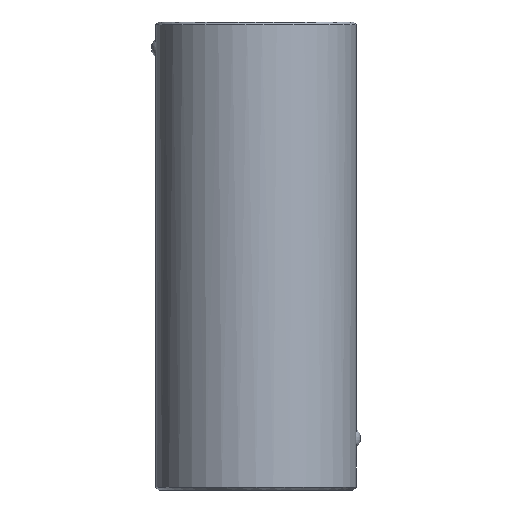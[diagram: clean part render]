
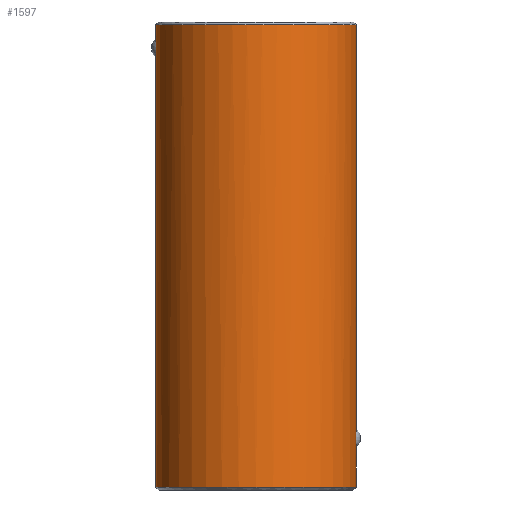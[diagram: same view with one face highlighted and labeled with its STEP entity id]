
A CAD part, front view. The second image highlights one B-rep face of the part: STEP entity #1597.
In plain terms, the highlighted cylindrical face has radius 12 mm (diameter 24 mm), a partial arc.
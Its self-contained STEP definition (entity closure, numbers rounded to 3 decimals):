
#1369=CARTESIAN_POINT('Vertex',(-12.,0.,0.3)) ;
#1376=CARTESIAN_POINT('Vertex',(12.,0.,0.3)) ;
#1379=CARTESIAN_POINT('Axis2P3D Location',(0.,0.,0.3)) ;
#1497=CARTESIAN_POINT('Axis2P3D Location',(0.,0.,56.)) ;
#1502=CARTESIAN_POINT('Line Origine',(12.,0.,56.)) ;
#1506=CARTESIAN_POINT('Vertex',(12.,0.,5.082)) ;
#1510=CARTESIAN_POINT('Control Point',(11.945,-1.143,6.424)) ;
#1511=CARTESIAN_POINT('Control Point',(11.937,-1.227,6.029)) ;
#1512=CARTESIAN_POINT('Control Point',(11.946,-1.127,5.596)) ;
#1513=CARTESIAN_POINT('Control Point',(11.983,-0.81,5.247)) ;
#1514=CARTESIAN_POINT('Control Point',(12.,-0.404,5.082)) ;
#1515=CARTESIAN_POINT('Control Point',(12.,0.,5.082)) ;
#1516=CARTESIAN_POINT('Vertex',(11.945,-1.143,6.424)) ;
#1520=CARTESIAN_POINT('Control Point',(12.,0.,7.318)) ;
#1521=CARTESIAN_POINT('Control Point',(12.,-0.393,7.318)) ;
#1522=CARTESIAN_POINT('Control Point',(11.981,-0.79,7.149)) ;
#1523=CARTESIAN_POINT('Control Point',(11.953,-1.061,6.808)) ;
#1524=CARTESIAN_POINT('Control Point',(11.945,-1.143,6.424)) ;
#1525=CARTESIAN_POINT('Vertex',(12.,0.,7.318)) ;
#1528=CARTESIAN_POINT('Line Origine',(12.,0.,56.)) ;
#1532=CARTESIAN_POINT('Vertex',(12.,0.,55.7)) ;
#1536=CARTESIAN_POINT('Control Point',(-12.,0.,55.7)) ;
#1537=CARTESIAN_POINT('Control Point',(-12.,-1.885,55.7)) ;
#1538=CARTESIAN_POINT('Control Point',(-11.63,-3.77,55.7)) ;
#1539=CARTESIAN_POINT('Control Point',(-10.889,-5.558,55.7)) ;
#1540=CARTESIAN_POINT('Control Point',(-8.747,-8.747,55.7)) ;
#1541=CARTESIAN_POINT('Control Point',(-5.558,-10.889,55.7)) ;
#1542=CARTESIAN_POINT('Control Point',(-3.77,-11.63,55.7)) ;
#1543=CARTESIAN_POINT('Control Point',(0.,-12.37,55.7)) ;
#1544=CARTESIAN_POINT('Control Point',(3.77,-11.63,55.7)) ;
#1545=CARTESIAN_POINT('Control Point',(5.558,-10.889,55.7)) ;
#1546=CARTESIAN_POINT('Control Point',(8.747,-8.747,55.7)) ;
#1547=CARTESIAN_POINT('Control Point',(10.889,-5.558,55.7)) ;
#1548=CARTESIAN_POINT('Control Point',(11.63,-3.77,55.7)) ;
#1549=CARTESIAN_POINT('Control Point',(12.,-1.885,55.7)) ;
#1550=CARTESIAN_POINT('Control Point',(12.,0.,55.7)) ;
#1551=CARTESIAN_POINT('Vertex',(-12.,0.,55.7)) ;
#1554=CARTESIAN_POINT('Line Origine',(-12.,0.,56.)) ;
#1558=CARTESIAN_POINT('Vertex',(-12.,0.,54.018)) ;
#1562=CARTESIAN_POINT('Control Point',(-11.945,-1.143,52.676)) ;
#1563=CARTESIAN_POINT('Control Point',(-11.937,-1.227,53.071)) ;
#1564=CARTESIAN_POINT('Control Point',(-11.946,-1.127,53.504)) ;
#1565=CARTESIAN_POINT('Control Point',(-11.983,-0.81,53.853)) ;
#1566=CARTESIAN_POINT('Control Point',(-12.,-0.404,54.018)) ;
#1567=CARTESIAN_POINT('Control Point',(-12.,0.,54.018)) ;
#1568=CARTESIAN_POINT('Vertex',(-11.945,-1.143,52.676)) ;
#1572=CARTESIAN_POINT('Control Point',(-12.,0.,51.782)) ;
#1573=CARTESIAN_POINT('Control Point',(-12.,-0.393,51.782)) ;
#1574=CARTESIAN_POINT('Control Point',(-11.981,-0.79,51.951)) ;
#1575=CARTESIAN_POINT('Control Point',(-11.953,-1.061,52.292)) ;
#1576=CARTESIAN_POINT('Control Point',(-11.945,-1.143,52.676)) ;
#1577=CARTESIAN_POINT('Vertex',(-12.,0.,51.782)) ;
#1580=CARTESIAN_POINT('Line Origine',(-12.,0.,56.)) ;
#1380=DIRECTION('Axis2P3D Direction',(0.,-0.,1.)) ;
#1498=DIRECTION('Axis2P3D Direction',(0.,0.,-1.)) ;
#1499=DIRECTION('Axis2P3D XDirection',(1.,0.,0.)) ;
#1503=DIRECTION('Vector Direction',(0.,0.,-1.)) ;
#1529=DIRECTION('Vector Direction',(0.,0.,-1.)) ;
#1555=DIRECTION('Vector Direction',(0.,0.,-1.)) ;
#1581=DIRECTION('Vector Direction',(0.,0.,-1.)) ;
#1381=AXIS2_PLACEMENT_3D('Circle Axis2P3D',#1379,#1380,$) ;
#1500=AXIS2_PLACEMENT_3D('Cylinder Axis2P3D',#1497,#1498,#1499) ;
#1586=ORIENTED_EDGE('',*,*,#1508,.T.) ;
#1587=ORIENTED_EDGE('',*,*,#1518,.F.) ;
#1588=ORIENTED_EDGE('',*,*,#1527,.F.) ;
#1589=ORIENTED_EDGE('',*,*,#1534,.T.) ;
#1590=ORIENTED_EDGE('',*,*,#1553,.F.) ;
#1591=ORIENTED_EDGE('',*,*,#1560,.T.) ;
#1592=ORIENTED_EDGE('',*,*,#1570,.F.) ;
#1593=ORIENTED_EDGE('',*,*,#1579,.F.) ;
#1594=ORIENTED_EDGE('',*,*,#1584,.T.) ;
#1595=ORIENTED_EDGE('',*,*,#1383,.T.) ;
#1504=VECTOR('Line Direction',#1503,1.) ;
#1530=VECTOR('Line Direction',#1529,1.) ;
#1556=VECTOR('Line Direction',#1555,1.) ;
#1582=VECTOR('Line Direction',#1581,1.) ;
#1597=ADVANCED_FACE('730-19x56',(#1596),#1501,.T.) ;
#1509=B_SPLINE_CURVE_WITH_KNOTS('',5,(#1510,#1511,#1512,#1513,#1514,#1515),.UNSPECIFIED.,.F.,.U.,(6,6),(0.,2.867),.UNSPECIFIED.) ;
#1519=B_SPLINE_CURVE_WITH_KNOTS('',4,(#1520,#1521,#1522,#1523,#1524),.UNSPECIFIED.,.F.,.U.,(5,5),(0.,2.23),.UNSPECIFIED.) ;
#1535=B_SPLINE_CURVE_WITH_KNOTS('',5,(#1536,#1537,#1538,#1539,#1540,#1541,#1542,#1543,#1544,#1545,#1546,#1547,#1548,#1549,#1550),.UNSPECIFIED.,.F.,.U.,(6,3,3,3,6),(-18.85,-9.425,0.,9.425,18.85),.UNSPECIFIED.) ;
#1561=B_SPLINE_CURVE_WITH_KNOTS('',5,(#1562,#1563,#1564,#1565,#1566,#1567),.UNSPECIFIED.,.F.,.U.,(6,6),(0.,2.867),.UNSPECIFIED.) ;
#1571=B_SPLINE_CURVE_WITH_KNOTS('',4,(#1572,#1573,#1574,#1575,#1576),.UNSPECIFIED.,.F.,.U.,(5,5),(0.,2.23),.UNSPECIFIED.) ;
#1382=CIRCLE('generated circle',#1381,12.) ;
#1501=CYLINDRICAL_SURFACE('generated cylinder',#1500,12.) ;
#1383=EDGE_CURVE('',#1370,#1377,#1382,.T.) ;
#1508=EDGE_CURVE('',#1377,#1507,#1505,.F.) ;
#1518=EDGE_CURVE('',#1517,#1507,#1509,.T.) ;
#1527=EDGE_CURVE('',#1526,#1517,#1519,.T.) ;
#1534=EDGE_CURVE('',#1526,#1533,#1531,.F.) ;
#1553=EDGE_CURVE('',#1552,#1533,#1535,.T.) ;
#1560=EDGE_CURVE('',#1552,#1559,#1557,.T.) ;
#1570=EDGE_CURVE('',#1569,#1559,#1561,.T.) ;
#1579=EDGE_CURVE('',#1578,#1569,#1571,.T.) ;
#1584=EDGE_CURVE('',#1578,#1370,#1583,.T.) ;
#1585=EDGE_LOOP('',(#1586,#1587,#1588,#1589,#1590,#1591,#1592,#1593,#1594,#1595)) ;
#1596=FACE_OUTER_BOUND('',#1585,.T.) ;
#1505=LINE('Line',#1502,#1504) ;
#1531=LINE('Line',#1528,#1530) ;
#1557=LINE('Line',#1554,#1556) ;
#1583=LINE('Line',#1580,#1582) ;
#1370=VERTEX_POINT('',#1369) ;
#1377=VERTEX_POINT('',#1376) ;
#1507=VERTEX_POINT('',#1506) ;
#1517=VERTEX_POINT('',#1516) ;
#1526=VERTEX_POINT('',#1525) ;
#1533=VERTEX_POINT('',#1532) ;
#1552=VERTEX_POINT('',#1551) ;
#1559=VERTEX_POINT('',#1558) ;
#1569=VERTEX_POINT('',#1568) ;
#1578=VERTEX_POINT('',#1577) ;
